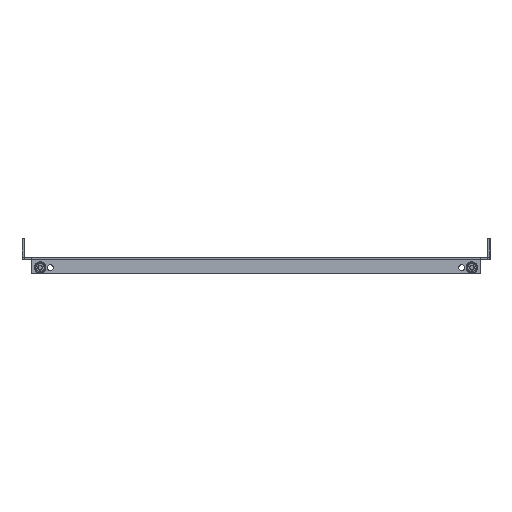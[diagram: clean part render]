
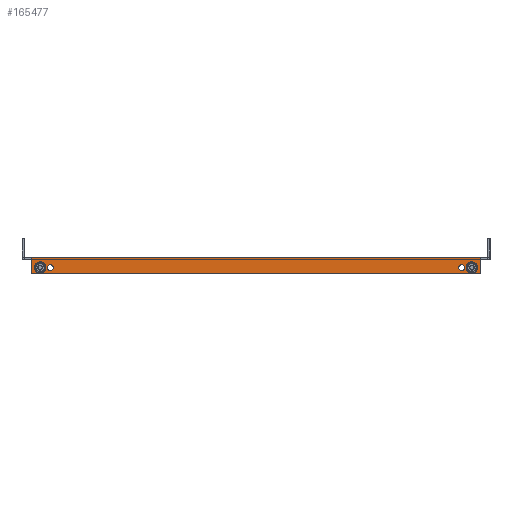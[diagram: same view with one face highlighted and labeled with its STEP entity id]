
A CAD part, left-side view. The second image highlights one B-rep face of the part: STEP entity #165477.
In plain terms, the highlighted planar face has unit normal (-1, 0, 0).
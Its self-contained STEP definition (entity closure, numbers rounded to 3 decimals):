
#147764 = VERTEX_POINT('',#147765);
#147765 = CARTESIAN_POINT('',(-550.,272.5,2.5));
#147771 = EDGE_CURVE('',#147772,#147764,#147774,.T.);
#147772 = VERTEX_POINT('',#147773);
#147773 = CARTESIAN_POINT('',(-550.,-272.5,2.5));
#147774 = LINE('',#147775,#147776);
#147775 = CARTESIAN_POINT('',(-550.,-282.,2.5));
#147776 = VECTOR('',#147777,1.);
#147777 = DIRECTION('',(-0.,1.,-0.));
#165356 = VERTEX_POINT('',#165357);
#165357 = CARTESIAN_POINT('',(-550.,-272.5,-0.6));
#165372 = EDGE_CURVE('',#165356,#147772,#165373,.T.);
#165373 = LINE('',#165374,#165375);
#165374 = CARTESIAN_POINT('',(-550.,-272.5,-0.6));
#165375 = VECTOR('',#165376,1.);
#165376 = DIRECTION('',(0.,-0.,1.));
#165396 = VERTEX_POINT('',#165397);
#165397 = CARTESIAN_POINT('',(-550.,272.5,-0.6));
#165403 = EDGE_CURVE('',#165396,#147764,#165404,.T.);
#165404 = LINE('',#165405,#165406);
#165405 = CARTESIAN_POINT('',(-550.,272.5,0.));
#165406 = VECTOR('',#165407,1.);
#165407 = DIRECTION('',(0.,0.,1.));
#165419 = EDGE_CURVE('',#165420,#165396,#165422,.T.);
#165420 = VERTEX_POINT('',#165421);
#165421 = CARTESIAN_POINT('',(-550.,272.5,-16.5));
#165422 = LINE('',#165423,#165424);
#165423 = CARTESIAN_POINT('',(-550.,272.5,0.));
#165424 = VECTOR('',#165425,1.);
#165425 = DIRECTION('',(0.,-0.,1.));
#165459 = EDGE_CURVE('',#165356,#165460,#165462,.T.);
#165460 = VERTEX_POINT('',#165461);
#165461 = CARTESIAN_POINT('',(-550.,-272.5,-16.5));
#165462 = LINE('',#165463,#165464);
#165463 = CARTESIAN_POINT('',(-550.,-272.5,-16.5));
#165464 = VECTOR('',#165465,1.);
#165465 = DIRECTION('',(0.,-0.,-1.));
#165477 = ADVANCED_FACE('',(#165478,#165498,#165518,#165529,#165540),
  #165553,.T.);
#165478 = FACE_BOUND('',#165479,.T.);
#165479 = EDGE_LOOP('',(#165480,#165491));
#165480 = ORIENTED_EDGE('',*,*,#165481,.F.);
#165481 = EDGE_CURVE('',#165482,#165484,#165486,.T.);
#165482 = VERTEX_POINT('',#165483);
#165483 = CARTESIAN_POINT('',(-550.,-262.5,-13.));
#165484 = VERTEX_POINT('',#165485);
#165485 = CARTESIAN_POINT('',(-550.,-262.5,-6.));
#165486 = CIRCLE('',#165487,3.5);
#165487 = AXIS2_PLACEMENT_3D('',#165488,#165489,#165490);
#165488 = CARTESIAN_POINT('',(-550.,-262.5,-9.5));
#165489 = DIRECTION('',(-1.,0.,0.));
#165490 = DIRECTION('',(0.,0.,-1.));
#165491 = ORIENTED_EDGE('',*,*,#165492,.F.);
#165492 = EDGE_CURVE('',#165484,#165482,#165493,.T.);
#165493 = CIRCLE('',#165494,3.5);
#165494 = AXIS2_PLACEMENT_3D('',#165495,#165496,#165497);
#165495 = CARTESIAN_POINT('',(-550.,-262.5,-9.5));
#165496 = DIRECTION('',(-1.,0.,0.));
#165497 = DIRECTION('',(0.,0.,-1.));
#165498 = FACE_BOUND('',#165499,.T.);
#165499 = EDGE_LOOP('',(#165500,#165511));
#165500 = ORIENTED_EDGE('',*,*,#165501,.F.);
#165501 = EDGE_CURVE('',#165502,#165504,#165506,.T.);
#165502 = VERTEX_POINT('',#165503);
#165503 = CARTESIAN_POINT('',(-550.,-250.,-13.));
#165504 = VERTEX_POINT('',#165505);
#165505 = CARTESIAN_POINT('',(-550.,-250.,-6.));
#165506 = CIRCLE('',#165507,3.5);
#165507 = AXIS2_PLACEMENT_3D('',#165508,#165509,#165510);
#165508 = CARTESIAN_POINT('',(-550.,-250.,-9.5));
#165509 = DIRECTION('',(-1.,0.,0.));
#165510 = DIRECTION('',(0.,0.,-1.));
#165511 = ORIENTED_EDGE('',*,*,#165512,.F.);
#165512 = EDGE_CURVE('',#165504,#165502,#165513,.T.);
#165513 = CIRCLE('',#165514,3.5);
#165514 = AXIS2_PLACEMENT_3D('',#165515,#165516,#165517);
#165515 = CARTESIAN_POINT('',(-550.,-250.,-9.5));
#165516 = DIRECTION('',(-1.,0.,0.));
#165517 = DIRECTION('',(0.,0.,-1.));
#165518 = FACE_BOUND('',#165519,.T.);
#165519 = EDGE_LOOP('',(#165520));
#165520 = ORIENTED_EDGE('',*,*,#165521,.F.);
#165521 = EDGE_CURVE('',#165522,#165522,#165524,.T.);
#165522 = VERTEX_POINT('',#165523);
#165523 = CARTESIAN_POINT('',(-550.,250.,-6.));
#165524 = CIRCLE('',#165525,3.5);
#165525 = AXIS2_PLACEMENT_3D('',#165526,#165527,#165528);
#165526 = CARTESIAN_POINT('',(-550.,250.,-9.5));
#165527 = DIRECTION('',(-1.,0.,0.));
#165528 = DIRECTION('',(0.,0.,1.));
#165529 = FACE_BOUND('',#165530,.T.);
#165530 = EDGE_LOOP('',(#165531));
#165531 = ORIENTED_EDGE('',*,*,#165532,.F.);
#165532 = EDGE_CURVE('',#165533,#165533,#165535,.T.);
#165533 = VERTEX_POINT('',#165534);
#165534 = CARTESIAN_POINT('',(-550.,262.5,-6.));
#165535 = CIRCLE('',#165536,3.5);
#165536 = AXIS2_PLACEMENT_3D('',#165537,#165538,#165539);
#165537 = CARTESIAN_POINT('',(-550.,262.5,-9.5));
#165538 = DIRECTION('',(-1.,0.,0.));
#165539 = DIRECTION('',(0.,0.,1.));
#165540 = FACE_BOUND('',#165541,.T.);
#165541 = EDGE_LOOP('',(#165542,#165543,#165544,#165545,#165546,#165547)
  );
#165542 = ORIENTED_EDGE('',*,*,#165459,.F.);
#165543 = ORIENTED_EDGE('',*,*,#165372,.T.);
#165544 = ORIENTED_EDGE('',*,*,#147771,.T.);
#165545 = ORIENTED_EDGE('',*,*,#165403,.F.);
#165546 = ORIENTED_EDGE('',*,*,#165419,.F.);
#165547 = ORIENTED_EDGE('',*,*,#165548,.F.);
#165548 = EDGE_CURVE('',#165460,#165420,#165549,.T.);
#165549 = LINE('',#165550,#165551);
#165550 = CARTESIAN_POINT('',(-550.,272.5,-16.5));
#165551 = VECTOR('',#165552,1.);
#165552 = DIRECTION('',(-0.,1.,-0.));
#165553 = PLANE('',#165554);
#165554 = AXIS2_PLACEMENT_3D('',#165555,#165556,#165557);
#165555 = CARTESIAN_POINT('',(-550.,272.5,0.));
#165556 = DIRECTION('',(-1.,0.,0.));
#165557 = DIRECTION('',(0.,0.,1.));
